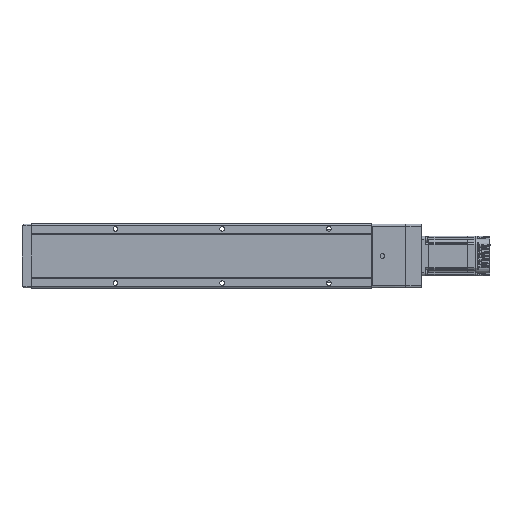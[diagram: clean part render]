
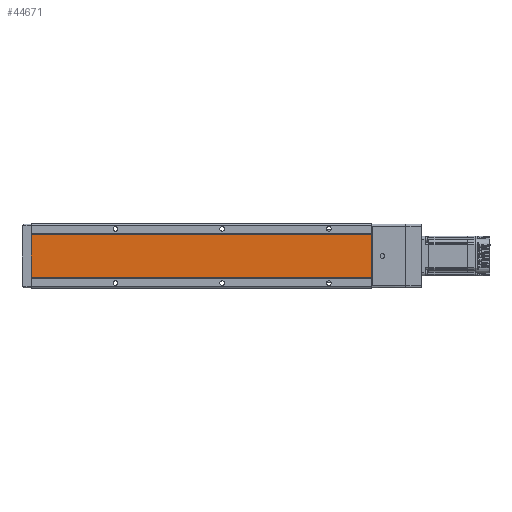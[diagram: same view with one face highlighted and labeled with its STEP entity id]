
A CAD part, front view. The second image highlights one B-rep face of the part: STEP entity #44671.
In plain terms, the highlighted planar face has unit normal (0, -1, 0).
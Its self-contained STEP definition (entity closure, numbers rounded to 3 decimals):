
#3164 = DIRECTION ( 'NONE',  ( 0., 0., -1. ) ) ;
#3966 = DIRECTION ( 'NONE',  ( 1., 0., 0. ) ) ;
#6707 = VECTOR ( 'NONE', #3966, 1000. ) ;
#6928 = DIRECTION ( 'NONE',  ( 1., 0., 0. ) ) ;
#12213 = ORIENTED_EDGE ( 'NONE', *, *, #39417, .T. ) ;
#16035 = EDGE_CURVE ( 'NONE', #38571, #21734, #30540, .T. ) ;
#18978 = DIRECTION ( 'NONE',  ( 0., 0., 1. ) ) ;
#19857 = LINE ( 'NONE', #37493, #21865 ) ;
#21067 = LINE ( 'NONE', #51411, #31738 ) ;
#21734 = VERTEX_POINT ( 'NONE', #35488 ) ;
#21839 = ORIENTED_EDGE ( 'NONE', *, *, #16035, .F. ) ;
#21865 = VECTOR ( 'NONE', #42093, 1000. ) ;
#22143 = CARTESIAN_POINT ( 'NONE',  ( -29.843, 1., 0. ) ) ;
#23022 = VECTOR ( 'NONE', #6928, 1000. ) ;
#24024 = VERTEX_POINT ( 'NONE', #22143 ) ;
#25370 = VERTEX_POINT ( 'NONE', #38512 ) ;
#30540 = LINE ( 'NONE', #51361, #6707 ) ;
#31394 = DIRECTION ( 'NONE',  ( 0., 1., 0. ) ) ;
#31738 = VECTOR ( 'NONE', #3164, 1000. ) ;
#33217 = LINE ( 'NONE', #38156, #23022 ) ;
#35488 = CARTESIAN_POINT ( 'NONE',  ( 29.843, 1., 478. ) ) ;
#36317 = FACE_OUTER_BOUND ( 'NONE', #44379, .T. ) ;
#36781 = AXIS2_PLACEMENT_3D ( 'NONE', #40925, #31394, #18978 ) ;
#37493 = CARTESIAN_POINT ( 'NONE',  ( 29.843, 1., 1378. ) ) ;
#38156 = CARTESIAN_POINT ( 'NONE',  ( -29.843, 1., 0. ) ) ;
#38512 = CARTESIAN_POINT ( 'NONE',  ( 29.843, 1., 0. ) ) ;
#38571 = VERTEX_POINT ( 'NONE', #38979 ) ;
#38979 = CARTESIAN_POINT ( 'NONE',  ( -29.843, 1., 478. ) ) ;
#39417 = EDGE_CURVE ( 'NONE', #38571, #24024, #21067, .T. ) ;
#39561 = ORIENTED_EDGE ( 'NONE', *, *, #57017, .T. ) ;
#40925 = CARTESIAN_POINT ( 'NONE',  ( -29.843, 1., 1378. ) ) ;
#42093 = DIRECTION ( 'NONE',  ( 0., 0., -1. ) ) ;
#44379 = EDGE_LOOP ( 'NONE', ( #21839, #12213, #39561, #50072 ) ) ;
#44671 = ADVANCED_FACE ( 'NONE', ( #36317 ), #53945, .F. ) ;
#50072 = ORIENTED_EDGE ( 'NONE', *, *, #54919, .F. ) ;
#51361 = CARTESIAN_POINT ( 'NONE',  ( -29.843, 1., 478. ) ) ;
#51411 = CARTESIAN_POINT ( 'NONE',  ( -29.843, 1., 1378. ) ) ;
#53945 = PLANE ( 'NONE',  #36781 ) ;
#54919 = EDGE_CURVE ( 'NONE', #21734, #25370, #19857, .T. ) ;
#57017 = EDGE_CURVE ( 'NONE', #24024, #25370, #33217, .T. ) ;
